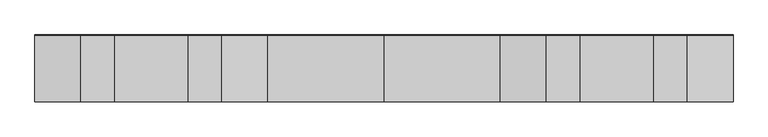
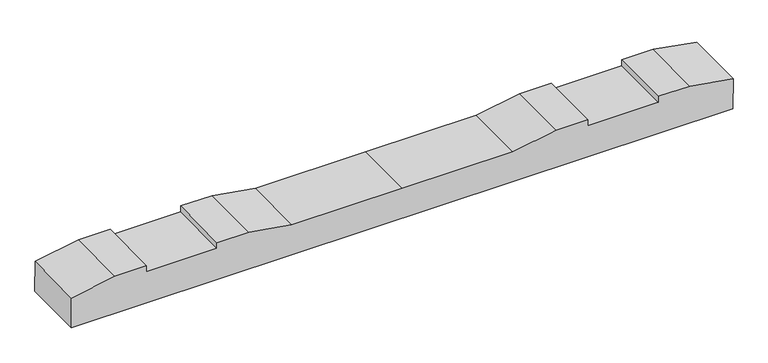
"""IFC4 building model written with IfcOpenShell, lengths in millimetres: proxy geometry, 轨枕-立面角度 : 轨枕-立面角度."""

from ifc_helpers import new_model, si_unit, frame, origin, place, context, project, spatial, polyline, outline, extrude, source, transform, mapped, element, save


def generic_models_772f56ea(model_context):
    return source(origin(), model_context, "Body", "SweptSolid", [
        extrude(outline(polyline([(0.0, 0.0), (2099.7669328, 0.0), (2099.7669328, -100.0206889), (1961.8834664, -124.5), (1861.8834664, -124.5), (1861.8834664, -104.4999999), (1637.8834664, -104.4999999), (1637.8834664, -124.5), (1537.8834664, -124.5), (1399.8834664, -100.0), (1049.8834664, -100.0), (699.8834664, -100.0), (561.8834664, -124.5), (461.8834664, -124.5), (461.8834664, -104.4999999), (237.8834664, -104.4999999), (237.8834664, -124.5), (137.8834664, -124.5), (0.0, -100.0206889), (0.0, 0.0)])), frame((-1049.8834664, -99.2622963, -105.2009816), z_axis=(0.0, 0.9999752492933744, 0.007035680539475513), x_axis=(1.0, 0.0, 0.0)), (0.0, 0.0, 1.0), 200.0),
    ])


if __name__ == "__main__":
    model = new_model("IFC4")
    model_context = context("Model", 3, world=origin())
    ifc_project = project(units=[si_unit("LENGTHUNIT", "METRE", prefix="MILLI")], contexts=[model_context])
    site = spatial("IfcSite", under=ifc_project)
    building = spatial("IfcBuilding", under=site)
    placement = place(None, origin())
    generic_models_shape = generic_models_772f56ea(model_context)
    element("IfcBuildingElementProxy", 1, Name="轨枕-立面角度 : 轨枕-立面角度", ObjectType="轨枕-立面角度 : 轨枕-立面角度", at=placement, inside=building, context=model_context, shape_type="MappedRepresentation", body=[
        mapped(generic_models_shape, transform((0.0, 0.0, 0.0), x_axis=(1.0, 0.0, 0.0), y_axis=(0.0, 1.0, 0.0), z_axis=(0.0, 0.0, 1.0))),
    ])
    save(model, "model.ifc")
